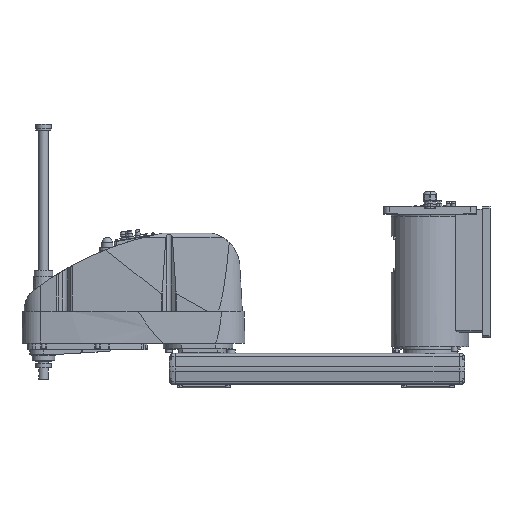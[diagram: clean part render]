
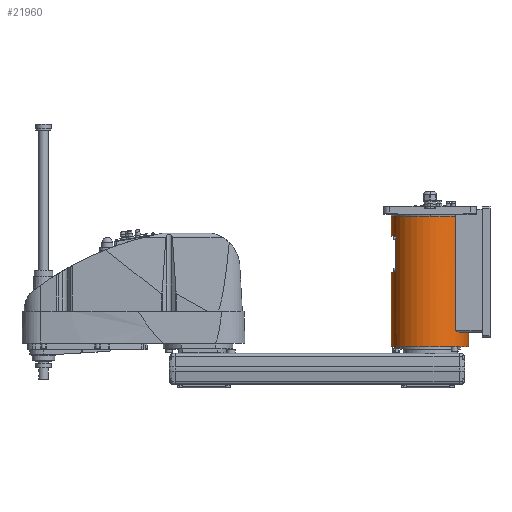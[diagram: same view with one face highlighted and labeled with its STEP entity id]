
A CAD part, top view. The second image highlights one B-rep face of the part: STEP entity #21960.
In plain terms, the highlighted cylindrical face has radius 100 mm (diameter 200 mm), a partial arc.
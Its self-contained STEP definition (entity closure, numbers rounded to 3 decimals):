
#9558 = VERTEX_POINT( '', #28001 );
#10042 = VERTEX_POINT( '', #28534 );
#11314 = EDGE_CURVE( '', #9558, #16664, #29954, .T. );
#12026 = EDGE_CURVE( '', #22286, #10042, #30753, .T. );
#12714 = EDGE_CURVE( '', #10042, #22522, #31569, .T. );
#14050 = VERTEX_POINT( '', #33051 );
#14166 = VERTEX_POINT( '', #33181 );
#14438 = VERTEX_POINT( '', #33487 );
#15064 = EDGE_CURVE( '', #26562, #22286, #34175, .T. );
#15484 = EDGE_CURVE( '', #26870, #26562, #34641, .T. );
#15818 = VERTEX_POINT( '', #35018 );
#16664 = VERTEX_POINT( '', #35959 );
#17154 = VERTEX_POINT( '', #36503 );
#17762 = EDGE_CURVE( '', #14438, #20340, #37180, .T. );
#17894 = EDGE_CURVE( '', #20912, #26740, #37331, .T. );
#19326 = EDGE_CURVE( '', #17154, #20912, #38938, .T. );
#20340 = VERTEX_POINT( '', #40080 );
#20912 = VERTEX_POINT( '', #40708 );
#21960 = ADVANCED_FACE( '', ( #41908 ), #41909, .T. );
#22286 = VERTEX_POINT( '', #42270 );
#22522 = VERTEX_POINT( '', #42534 );
#23314 = EDGE_CURVE( '', #14050, #9558, #43413, .T. );
#24878 = EDGE_CURVE( '', #14166, #26870, #45144, .T. );
#25936 = EDGE_CURVE( '', #26740, #14166, #46312, .T. );
#26132 = EDGE_CURVE( '', #20340, #26882, #46531, .T. );
#26230 = EDGE_CURVE( '', #14050, #15818, #46636, .T. );
#26562 = VERTEX_POINT( '', #47008 );
#26648 = EDGE_CURVE( '', #15818, #26882, #47107, .T. );
#26740 = VERTEX_POINT( '', #47215 );
#26870 = VERTEX_POINT( '', #47352 );
#26882 = VERTEX_POINT( '', #47366 );
#26954 = EDGE_CURVE( '', #22522, #14438, #47447, .T. );
#27546 = EDGE_CURVE( '', #16664, #17154, #48101, .T. );
#28001 = CARTESIAN_POINT( '', ( -100., 311.3, 0. ) );
#28534 = CARTESIAN_POINT( '', ( 75.993, 62., 65. ) );
#29954 = CIRCLE( '', #51526, 100. );
#30753 = CIRCLE( '', #52677, 100. );
#31569 = LINE( '', #53815, #53816 );
#33051 = CARTESIAN_POINT( '', ( -100., 363., 0. ) );
#33181 = CARTESIAN_POINT( '', ( 100., 25., 0. ) );
#33487 = CARTESIAN_POINT( '', ( 70.42, 64., 71. ) );
#34175 = LINE( '', #57531, #57532 );
#34641 = CIRCLE( '', #58225, 100. );
#35018 = CARTESIAN_POINT( '', ( 0., 363., 100. ) );
#35959 = CARTESIAN_POINT( '', ( -88., 311.3, 47.497 ) );
#36503 = CARTESIAN_POINT( '', ( -88., 218.3, 47.497 ) );
#37180 = B_SPLINE_CURVE_WITH_KNOTS( '', 3, ( #61863, #61864, #61865, #61866, #61867, #61868, #61869, #61870, #61871, #61872, #61873, #61874, #61875, #61876, #61877, #61878, #61879, #61880 ), .UNSPECIFIED., .F., .F., ( 4, 2, 2, 2, 2, 2, 2, 2, 4 ), ( 7.241, 8.361, 9.482, 10.602, 11.722, 12.472, 13.222, 13.972, 14.722 ), .UNSPECIFIED. );
#37331 = LINE( '', #62079, #62080 );
#38938 = CIRCLE( '', #64384, 100. );
#40080 = CARTESIAN_POINT( '', ( 66.144, 68., 75. ) );
#40708 = CARTESIAN_POINT( '', ( -100., 218.3, 0. ) );
#41908 = FACE_OUTER_BOUND( '', #68669, .T. );
#41909 = CYLINDRICAL_SURFACE( '', #68670, 100. );
#42270 = CARTESIAN_POINT( '', ( 89.303, 62., 45. ) );
#42534 = CARTESIAN_POINT( '', ( 75.993, 64., 65. ) );
#43413 = LINE( '', #70795, #70796 );
#45144 = LINE( '', #73263, #73264 );
#46312 = CIRCLE( '', #74937, 100. );
#46531 = LINE( '', #75256, #75257 );
#46636 = CIRCLE( '', #75402, 100. );
#47008 = CARTESIAN_POINT( '', ( 89.303, 64., 45. ) );
#47107 = CIRCLE( '', #76041, 100. );
#47215 = CARTESIAN_POINT( '', ( -100., 25., 0. ) );
#47352 = CARTESIAN_POINT( '', ( 100., 64., 0. ) );
#47366 = CARTESIAN_POINT( '', ( 66.144, 363., 75. ) );
#47447 = CIRCLE( '', #76524, 100. );
#48101 = LINE( '', #77512, #77513 );
#51526 = AXIS2_PLACEMENT_3D( '', #80224, #80225, #80226 );
#52677 = AXIS2_PLACEMENT_3D( '', #81149, #81150, #81151 );
#53815 = CARTESIAN_POINT( '', ( 75.993, 63., 65. ) );
#53816 = VECTOR( '', #82259, 1. );
#57531 = CARTESIAN_POINT( '', ( 89.303, 63., 45. ) );
#57532 = VECTOR( '', #85199, 1. );
#58225 = AXIS2_PLACEMENT_3D( '', #85729, #85730, #85731 );
#61863 = CARTESIAN_POINT( '', ( 70.42, 64., 71. ) );
#61864 = CARTESIAN_POINT( '', ( 70.155, 64., 71.263 ) );
#61865 = CARTESIAN_POINT( '', ( 69.877, 64.026, 71.535 ) );
#61866 = CARTESIAN_POINT( '', ( 69.316, 64.139, 72.08 ) );
#61867 = CARTESIAN_POINT( '', ( 69.031, 64.224, 72.352 ) );
#61868 = CARTESIAN_POINT( '', ( 68.475, 64.457, 72.879 ) );
#61869 = CARTESIAN_POINT( '', ( 68.203, 64.604, 73.134 ) );
#61870 = CARTESIAN_POINT( '', ( 67.688, 64.954, 73.61 ) );
#61871 = CARTESIAN_POINT( '', ( 67.446, 65.158, 73.831 ) );
#61872 = CARTESIAN_POINT( '', ( 67.082, 65.542, 74.162 ) );
#61873 = CARTESIAN_POINT( '', ( 66.938, 65.716, 74.292 ) );
#61874 = CARTESIAN_POINT( '', ( 66.674, 66.103, 74.529 ) );
#61875 = CARTESIAN_POINT( '', ( 66.555, 66.315, 74.636 ) );
#61876 = CARTESIAN_POINT( '', ( 66.356, 66.766, 74.812 ) );
#61877 = CARTESIAN_POINT( '', ( 66.277, 67.005, 74.882 ) );
#61878 = CARTESIAN_POINT( '', ( 66.171, 67.497, 74.976 ) );
#61879 = CARTESIAN_POINT( '', ( 66.144, 67.75, 75. ) );
#61880 = CARTESIAN_POINT( '', ( 66.144, 68., 75. ) );
#62079 = CARTESIAN_POINT( '', ( -100., 194., 0. ) );
#62080 = VECTOR( '', #88840, 1. );
#64384 = AXIS2_PLACEMENT_3D( '', #90750, #90751, #90752 );
#68669 = EDGE_LOOP( '', ( #94285, #94286, #94287, #94288, #94289, #94290, #94291, #94292, #94293, #94294, #94295, #94296, #94297, #94298, #94299, #94300 ) );
#68670 = AXIS2_PLACEMENT_3D( '', #94301, #94302, #94303 );
#70795 = CARTESIAN_POINT( '', ( -100., 194., 0. ) );
#70796 = VECTOR( '', #95950, 1. );
#73263 = CARTESIAN_POINT( '', ( 100., 194., 0. ) );
#73264 = VECTOR( '', #97838, 1. );
#74937 = AXIS2_PLACEMENT_3D( '', #99112, #99113, #99114 );
#75256 = CARTESIAN_POINT( '', ( 66.144, 215.5, 75. ) );
#75257 = VECTOR( '', #99352, 1. );
#75402 = AXIS2_PLACEMENT_3D( '', #99449, #99450, #99451 );
#76041 = AXIS2_PLACEMENT_3D( '', #100032, #100033, #100034 );
#76524 = AXIS2_PLACEMENT_3D( '', #100423, #100424, #100425 );
#77512 = CARTESIAN_POINT( '', ( -88., 264.8, 47.497 ) );
#77513 = VECTOR( '', #101169, 1. );
#80224 = CARTESIAN_POINT( '', ( 0., 311.3, 0. ) );
#80225 = DIRECTION( '', ( 0., 1., 0. ) );
#80226 = DIRECTION( '', ( 1., 0., 0. ) );
#81149 = CARTESIAN_POINT( '', ( 0., 62., 0. ) );
#81150 = DIRECTION( '', ( 0., -1., 0. ) );
#81151 = DIRECTION( '', ( 1., 0., 0. ) );
#82259 = DIRECTION( '', ( 0., 1., 0. ) );
#85199 = DIRECTION( '', ( 0., -1., 0. ) );
#85729 = CARTESIAN_POINT( '', ( 0., 64., 0. ) );
#85730 = DIRECTION( '', ( 0., -1., 0. ) );
#85731 = DIRECTION( '', ( 1., 0., 0. ) );
#88840 = DIRECTION( '', ( 0., -1., 0. ) );
#90750 = CARTESIAN_POINT( '', ( 0., 218.3, 0. ) );
#90751 = DIRECTION( '', ( 0., -1., 0. ) );
#90752 = DIRECTION( '', ( 1., 0., 0. ) );
#94285 = ORIENTED_EDGE( '', *, *, #24878, .T. );
#94286 = ORIENTED_EDGE( '', *, *, #15484, .T. );
#94287 = ORIENTED_EDGE( '', *, *, #15064, .T. );
#94288 = ORIENTED_EDGE( '', *, *, #12026, .T. );
#94289 = ORIENTED_EDGE( '', *, *, #12714, .T. );
#94290 = ORIENTED_EDGE( '', *, *, #26954, .T. );
#94291 = ORIENTED_EDGE( '', *, *, #17762, .T. );
#94292 = ORIENTED_EDGE( '', *, *, #26132, .T. );
#94293 = ORIENTED_EDGE( '', *, *, #26648, .F. );
#94294 = ORIENTED_EDGE( '', *, *, #26230, .F. );
#94295 = ORIENTED_EDGE( '', *, *, #23314, .T. );
#94296 = ORIENTED_EDGE( '', *, *, #11314, .T. );
#94297 = ORIENTED_EDGE( '', *, *, #27546, .T. );
#94298 = ORIENTED_EDGE( '', *, *, #19326, .T. );
#94299 = ORIENTED_EDGE( '', *, *, #17894, .T. );
#94300 = ORIENTED_EDGE( '', *, *, #25936, .T. );
#94301 = CARTESIAN_POINT( '', ( 0., 194., 0. ) );
#94302 = DIRECTION( '', ( 0., -1., 0. ) );
#94303 = DIRECTION( '', ( 1., 0., 0. ) );
#95950 = DIRECTION( '', ( 0., -1., 0. ) );
#97838 = DIRECTION( '', ( 0., 1., 0. ) );
#99112 = CARTESIAN_POINT( '', ( 0., 25., 0. ) );
#99113 = DIRECTION( '', ( 0., 1., 0. ) );
#99114 = DIRECTION( '', ( 1., 0., 0. ) );
#99352 = DIRECTION( '', ( 0., 1., 0. ) );
#99449 = CARTESIAN_POINT( '', ( 0., 363., 0. ) );
#99450 = DIRECTION( '', ( 0., 1., 0. ) );
#99451 = DIRECTION( '', ( 1., 0., 0. ) );
#100032 = CARTESIAN_POINT( '', ( 0., 363., 0. ) );
#100033 = DIRECTION( '', ( 0., 1., 0. ) );
#100034 = DIRECTION( '', ( 1., 0., 0. ) );
#100423 = CARTESIAN_POINT( '', ( 0., 64., 0. ) );
#100424 = DIRECTION( '', ( 0., -1., 0. ) );
#100425 = DIRECTION( '', ( 1., 0., 0. ) );
#101169 = DIRECTION( '', ( 0., -1., 0. ) );
